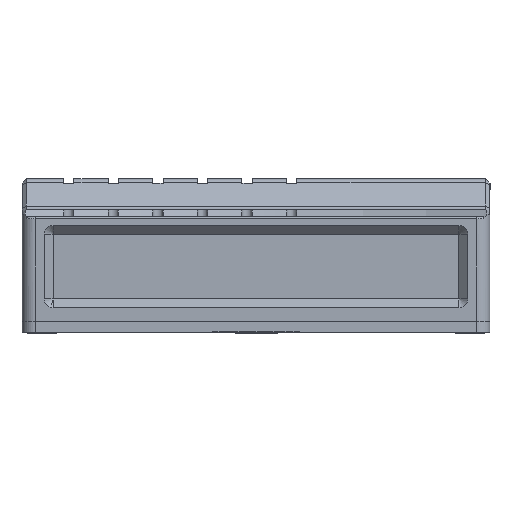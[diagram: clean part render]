
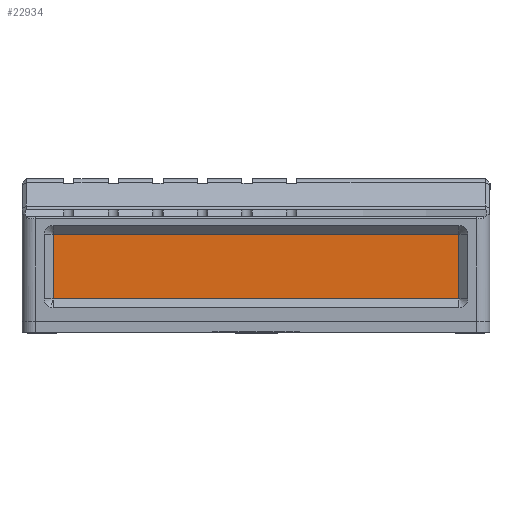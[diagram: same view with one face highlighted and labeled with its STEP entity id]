
A CAD part, left-side view. The second image highlights one B-rep face of the part: STEP entity #22934.
In plain terms, the highlighted planar face has unit normal (-1, 0, 0) as drawn and (0, 1, 0) by its records, which use the part's own axes.
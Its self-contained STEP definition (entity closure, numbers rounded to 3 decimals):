
#20499=FACE_OUTER_BOUND('',#28555,.T.);
#22934=ADVANCED_FACE('',(#20499),#24646,.T.);
#24646=PLANE('',#58993);
#28555=EDGE_LOOP('',(#37048,#37049,#37050,#37051));
#37048=ORIENTED_EDGE('',*,*,#48949,.T.);
#37049=ORIENTED_EDGE('',*,*,#48950,.F.);
#37050=ORIENTED_EDGE('',*,*,#48951,.T.);
#37051=ORIENTED_EDGE('',*,*,#48952,.F.);
#43822=VERTEX_POINT('',#83159);
#43823=VERTEX_POINT('',#83160);
#43824=VERTEX_POINT('',#83162);
#43825=VERTEX_POINT('',#83164);
#48949=EDGE_CURVE('',#43822,#43823,#52873,.T.);
#48950=EDGE_CURVE('',#43824,#43823,#52874,.T.);
#48951=EDGE_CURVE('',#43824,#43825,#52875,.T.);
#48952=EDGE_CURVE('',#43822,#43825,#52876,.T.);
#52873=LINE('',#83158,#55933);
#52874=LINE('',#83161,#55934);
#52875=LINE('',#83163,#55935);
#52876=LINE('',#83165,#55936);
#55933=VECTOR('',#66045,1.);
#55934=VECTOR('',#66046,1.);
#55935=VECTOR('',#66047,1.);
#55936=VECTOR('',#66048,1.);
#58993=AXIS2_PLACEMENT_3D('',#83166,#66049,#66050);
#66045=DIRECTION('',(-1.,0.,0.));
#66046=DIRECTION('',(0.,0.,-1.));
#66047=DIRECTION('',(1.,0.,0.));
#66048=DIRECTION('',(0.,0.,1.));
#66049=DIRECTION('',(0.,1.,0.));
#66050=DIRECTION('',(-1.,0.,0.));
#83158=CARTESIAN_POINT('',(0.,100.5,-1.));
#83159=CARTESIAN_POINT('',(98.,100.5,-1.));
#83160=CARTESIAN_POINT('',(7.,100.5,-1.));
#83161=CARTESIAN_POINT('',(7.,100.5,0.));
#83162=CARTESIAN_POINT('',(7.,100.5,13.5));
#83163=CARTESIAN_POINT('',(0.,100.5,13.5));
#83164=CARTESIAN_POINT('',(98.,100.5,13.5));
#83165=CARTESIAN_POINT('',(98.,100.5,0.));
#83166=CARTESIAN_POINT('',(0.,100.5,0.));
